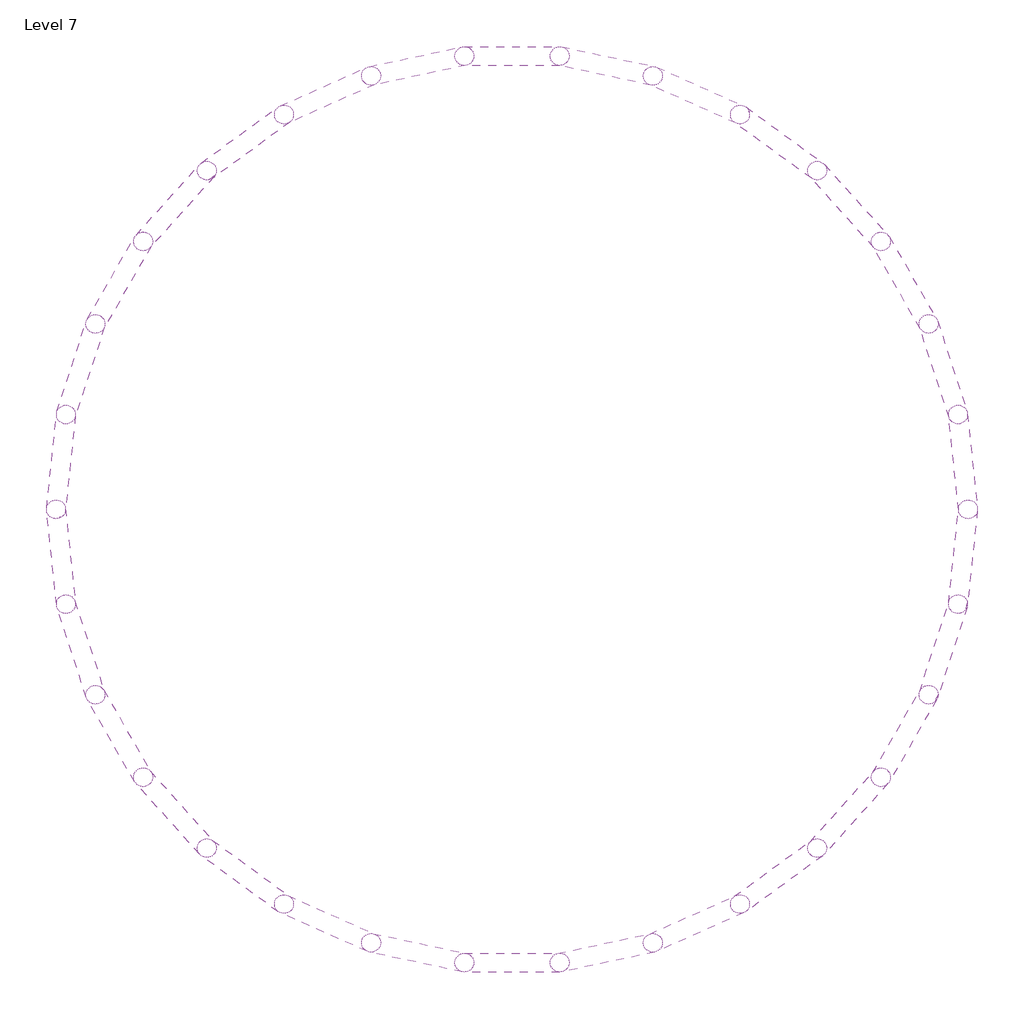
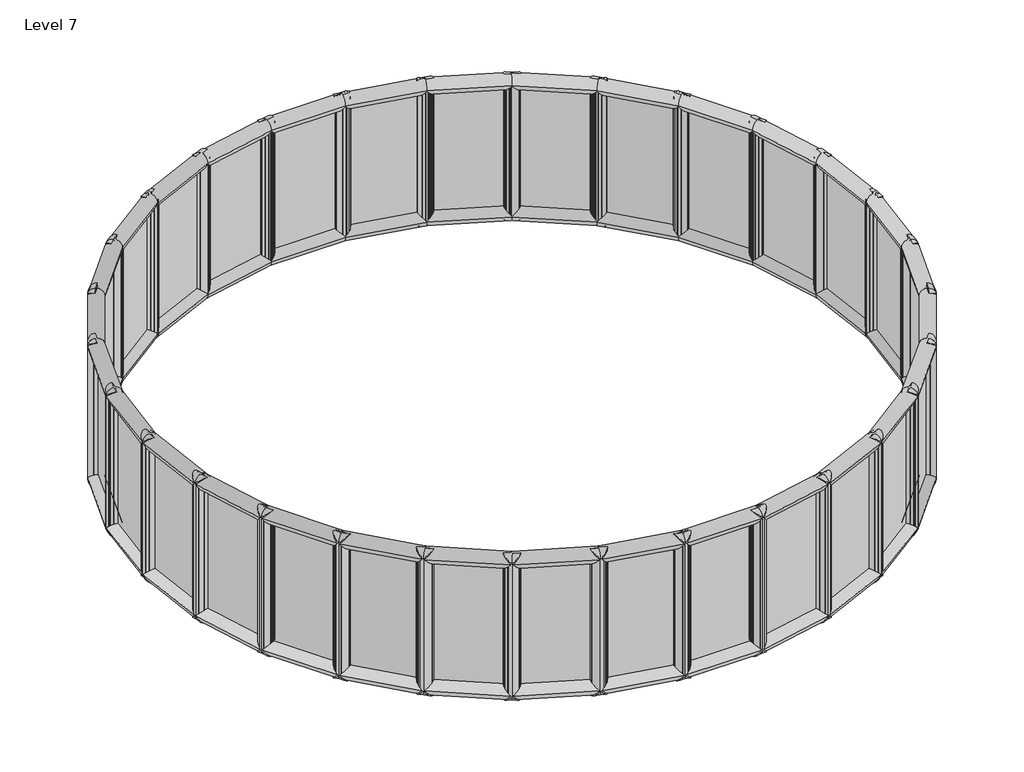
# One storey: 30 plates.
"""IFC4 building model written with IfcOpenShell, lengths in millimetres."""

from ifc_helpers import new_model, si_unit, origin, place, context, project, spatial, transform, mapped, element, save
from components import curtainpanel_curtainpanel_422c0389

model = new_model("IFC4")

# Units and contexts
model_context = context("Model", 3, world=origin())
ifc_project = project(units=[si_unit("LENGTHUNIT", "METRE", prefix="MILLI")], contexts=[model_context])

# Site, building, storey
site = spatial("IfcSite", under=ifc_project)
building = spatial("IfcBuilding", under=site)
storey = spatial("IfcBuildingStorey", under=building, Name="Level 7", Elevation=24000.0)

# Plates
placement = place(None, origin())
curtainpanel_curtainpanel_shape = curtainpanel_curtainpanel_422c0389(model_context)
element("IfcPlate", 1, ObjectType="CurtainPanel : CurtainPanel", at=placement, inside=storey, context=model_context, shape_type="MappedRepresentation", body=[
    mapped(curtainpanel_curtainpanel_shape, transform((10473.3847977, -2258.8505448, 35677.6455221), x_axis=(-0.10026801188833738, 0.9539864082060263, -0.2825884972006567), y_axis=(0.02953854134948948, -0.2810404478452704, -0.9592412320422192), z_axis=(-0.9945218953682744, -0.10452846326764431, 0.0))),
])
element("IfcPlate", 2, ObjectType="CurtainPanel : CurtainPanel", at=placement, inside=storey, context=model_context, shape_type="MappedRepresentation", body=[
    mapped(curtainpanel_curtainpanel_shape, transform((10648.8011484, 26.5774373, 35677.6455221), x_axis=(-0.29642184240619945, 0.9122926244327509, -0.28258849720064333), y_axis=(0.08732464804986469, -0.2687576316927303, -0.959241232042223), z_axis=(-0.9510565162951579, -0.3090169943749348, 0.0))),
])
element("IfcPlate", 3, ObjectType="CurtainPanel : CurtainPanel", at=placement, inside=storey, context=model_context, shape_type="MappedRepresentation", body=[
    mapped(curtainpanel_curtainpanel_shape, transform((10345.217035, 2298.5344447, 35677.6455221), x_axis=(-0.47962061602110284, 0.8307272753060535, -0.28258849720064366), y_axis=(0.1412942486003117, -0.2447288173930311, -0.959241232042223), z_axis=(-0.866025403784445, -0.4999999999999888, 0.0))),
])
element("IfcPlate", 4, ObjectType="CurtainPanel : CurtainPanel", at=placement, inside=storey, context=model_context, shape_type="MappedRepresentation", body=[
    mapped(curtainpanel_curtainpanel_shape, transform((9575.90054, 4457.7250542, 35677.6455221), x_axis=(-0.6418576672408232, 0.712855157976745, -0.28258849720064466), y_axis=(0.18908861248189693, -0.2100041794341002, -0.9592412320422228), z_axis=(-0.743144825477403, -0.6691306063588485, 0.0))),
])
element("IfcPlate", 5, ObjectType="CurtainPanel : CurtainPanel", at=placement, inside=storey, context=model_context, shape_type="MappedRepresentation", body=[
    mapped(curtainpanel_curtainpanel_shape, transform((8374.4744858, 6409.7822751, 35677.6455221), x_axis=(-0.7760424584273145, 0.5638278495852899, -0.282588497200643), y_axis=(0.22861889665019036, -0.16610135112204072, -0.9592412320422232), z_axis=(-0.5877852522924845, -0.8090169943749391, 0.0))),
])
element("IfcPlate", 6, ObjectType="CurtainPanel : CurtainPanel", at=placement, inside=storey, context=model_context, shape_type="MappedRepresentation", body=[
    mapped(curtainpanel_curtainpanel_shape, transform((6793.446956, 8069.3918399, 35677.6455221), x_axis=(-0.8763104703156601, 0.39015855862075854, -0.28258849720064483), y_axis=(0.2581574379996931, -0.11493909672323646, -0.9592412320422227), z_axis=(-0.406736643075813, -0.9135454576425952, 0.0))),
])
element("IfcPlate", 7, ObjectType="CurtainPanel : CurtainPanel", at=placement, inside=storey, context=model_context, shape_type="MappedRepresentation", body=[
    mapped(curtainpanel_curtainpanel_shape, transform((4901.9164403, 9364.020847, 35677.6455221), x_axis=(-0.9382795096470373, 0.1994374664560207, -0.2825884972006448), y_axis=(0.2764132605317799, -0.05875345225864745, -0.9592412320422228), z_axis=(-0.20791169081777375, -0.9781476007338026, 0.0))),
])
element("IfcPlate", 8, ObjectType="CurtainPanel : CurtainPanel", at=placement, inside=storey, context=model_context, shape_type="MappedRepresentation", body=[
    mapped(curtainpanel_curtainpanel_shape, transform((2782.5518989, 10237.0877963, 35677.6455221), x_axis=(-0.9592412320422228, 0.0, -0.28258849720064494), y_axis=(0.28258849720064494, 0.0, -0.9592412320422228), z_axis=(0.0, -1.0, 0.0))),
])
element("IfcPlate", 9, ObjectType="CurtainPanel : CurtainPanel", at=placement, inside=storey, context=model_context, shape_type="MappedRepresentation", body=[
    mapped(curtainpanel_curtainpanel_shape, transform((527.979732, 10650.4354728, 35677.6455221), x_axis=(-0.9382795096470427, -0.19943746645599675, -0.2825884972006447), y_axis=(0.2764132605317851, 0.058753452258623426, -0.9592412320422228), z_axis=(0.20791169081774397, -0.978147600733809, 0.0))),
])
element("IfcPlate", 10, ObjectType="CurtainPanel : CurtainPanel", at=placement, inside=storey, context=model_context, shape_type="MappedRepresentation", body=[
    mapped(curtainpanel_curtainpanel_shape, transform((-1763.2644381, 10585.9985995, 35677.6455221), x_axis=(-0.8763104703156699, -0.3901585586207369, -0.2825884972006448), y_axis=(0.2581574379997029, 0.11493909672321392, -0.9592412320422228), z_axis=(0.40673664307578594, -0.9135454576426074, 0.0))),
])
element("IfcPlate", 11, ObjectType="CurtainPanel : CurtainPanel", at=placement, inside=storey, context=model_context, shape_type="MappedRepresentation", body=[
    mapped(curtainpanel_curtainpanel_shape, transform((-6057.9891129, 9055.794402, 35677.6455221), x_axis=(-0.6418576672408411, -0.7128551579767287, -0.28258849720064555), y_axis=(0.18908861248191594, 0.21000417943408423, -0.9592412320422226), z_axis=(0.7431448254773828, -0.669130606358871, 0.0))),
])
element("IfcPlate", 12, ObjectType="CurtainPanel : CurtainPanel", at=placement, inside=storey, context=model_context, shape_type="MappedRepresentation", body=[
    mapped(curtainpanel_curtainpanel_shape, transform((-9359.0252128, 5911.0614109, 35677.6455221), x_axis=(-0.29642184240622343, -0.912292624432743, -0.28258849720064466), y_axis=(0.08732464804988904, 0.2687576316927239, -0.9592412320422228), z_axis=(0.951056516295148, -0.3090169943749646, 0.0))),
])
element("IfcPlate", 13, ObjectType="CurtainPanel : CurtainPanel", at=placement, inside=storey, context=model_context, shape_type="MappedRepresentation", body=[
    mapped(curtainpanel_curtainpanel_shape, transform((-3991.0422465, 10046.593377, 35677.6455221), x_axis=(-0.7760424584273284, -0.5638278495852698, -0.28258849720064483), y_axis=(0.22861889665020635, 0.16610135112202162, -0.9592412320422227), z_axis=(0.5877852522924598, -0.8090169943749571, 0.0))),
])
element("IfcPlate", 14, ObjectType="CurtainPanel : CurtainPanel", at=placement, inside=storey, context=model_context, shape_type="MappedRepresentation", body=[
    mapped(curtainpanel_curtainpanel_shape, transform((-7873.7695409, 7656.9043439, 35677.6455221), x_axis=(-0.4796206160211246, -0.8307272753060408, -0.2825884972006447), y_axis=(0.14129424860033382, 0.24472881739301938, -0.9592412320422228), z_axis=(0.8660254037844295, -0.5000000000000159, 0.0))),
])
element("IfcPlate", 15, ObjectType="CurtainPanel : CurtainPanel", at=placement, inside=storey, context=model_context, shape_type="MappedRepresentation", body=[
    mapped(curtainpanel_curtainpanel_shape, transform((-10448.8433287, 3894.5673167, 35677.6455221), x_axis=(-0.10026801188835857, -0.9539864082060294, -0.28258849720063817), y_axis=(0.029538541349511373, 0.28104044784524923, -0.9592412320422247), z_axis=(0.9945218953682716, -0.10452846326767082, 0.0))),
])
element("IfcPlate", 16, ObjectType="CurtainPanel : CurtainPanel", at=placement, inside=storey, context=model_context, shape_type="MappedRepresentation", body=[
    mapped(curtainpanel_curtainpanel_shape, transform((-11095.5936073, 1695.5525294, 35677.6455221), x_axis=(0.10026801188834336, -0.9539864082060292, -0.28258849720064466), y_axis=(-0.029538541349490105, 0.28104044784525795, -0.9592412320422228), z_axis=(0.9945218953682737, 0.10452846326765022, 0.0))),
])
element("IfcPlate", 17, ObjectType="CurtainPanel : CurtainPanel", at=placement, inside=storey, context=model_context, shape_type="MappedRepresentation", body=[
    mapped(curtainpanel_curtainpanel_shape, transform((-11271.009958, -589.8754527, 35677.6455221), x_axis=(0.29642184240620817, -0.9122926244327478, -0.2825884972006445), y_axis=(-0.08732464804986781, 0.26875763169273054, -0.9592412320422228), z_axis=(0.9510565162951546, 0.309016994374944, 0.0))),
])
element("IfcPlate", 18, ObjectType="CurtainPanel : CurtainPanel", at=placement, inside=storey, context=model_context, shape_type="MappedRepresentation", body=[
    mapped(curtainpanel_curtainpanel_shape, transform((-10967.4258446, -2861.8324601, 35677.6455221), x_axis=(0.4796206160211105, -0.8307272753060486, -0.28258849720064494), y_axis=(-0.14129424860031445, 0.24472881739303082, -0.9592412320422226), z_axis=(0.8660254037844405, 0.49999999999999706, 0.0))),
])
element("IfcPlate", 19, ObjectType="CurtainPanel : CurtainPanel", at=placement, inside=storey, context=model_context, shape_type="MappedRepresentation", body=[
    mapped(curtainpanel_curtainpanel_shape, transform((-10198.1093496, -5021.0230696, 35677.6455221), x_axis=(0.6418576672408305, -0.7128551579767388, -0.28258849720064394), y_axis=(-0.1890886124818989, 0.21000417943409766, -0.9592412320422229), z_axis=(0.7431448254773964, 0.6691306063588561, 0.0))),
])
element("IfcPlate", 20, ObjectType="CurtainPanel : CurtainPanel", at=placement, inside=storey, context=model_context, shape_type="MappedRepresentation", body=[
    mapped(curtainpanel_curtainpanel_shape, transform((-8996.6832954, -6973.0802905, 35677.6455221), x_axis=(0.7760424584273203, -0.5638278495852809, -0.2825884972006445), y_axis=(-0.22861889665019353, 0.16610135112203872, -0.9592412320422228), z_axis=(0.5877852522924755, 0.8090169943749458, 0.0))),
])
element("IfcPlate", 21, ObjectType="CurtainPanel : CurtainPanel", at=placement, inside=storey, context=model_context, shape_type="MappedRepresentation", body=[
    mapped(curtainpanel_curtainpanel_shape, transform((-7415.6557656, -8632.6898553, 35677.6455221), x_axis=(0.8763104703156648, -0.3901585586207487, -0.28258849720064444), y_axis=(-0.25815743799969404, 0.11493909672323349, -0.9592412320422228), z_axis=(0.4067366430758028, 0.9135454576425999, 0.0))),
])
element("IfcPlate", 22, ObjectType="CurtainPanel : CurtainPanel", at=placement, inside=storey, context=model_context, shape_type="MappedRepresentation", body=[
    mapped(curtainpanel_curtainpanel_shape, transform((-5524.1252499, -9927.3188624, 35677.6455221), x_axis=(0.9382795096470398, -0.19943746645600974, -0.2825884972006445), y_axis=(-0.2764132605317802, 0.058753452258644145, -0.9592412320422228), z_axis=(0.20791169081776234, 0.9781476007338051, 0.0))),
])
element("IfcPlate", 23, ObjectType="CurtainPanel : CurtainPanel", at=placement, inside=storey, context=model_context, shape_type="MappedRepresentation", body=[
    mapped(curtainpanel_curtainpanel_shape, transform((-3404.7607085, -10800.3858117, 35677.6455221), x_axis=(0.9592412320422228, 0.0, -0.28258849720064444), y_axis=(-0.28258849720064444, 0.0, -0.9592412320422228), z_axis=(0.0, 1.0, 0.0))),
])
element("IfcPlate", 24, ObjectType="CurtainPanel : CurtainPanel", at=placement, inside=storey, context=model_context, shape_type="MappedRepresentation", body=[
    mapped(curtainpanel_curtainpanel_shape, transform((-1150.1885416, -11213.7334882, 35677.6455221), x_axis=(0.93827950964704, 0.1994374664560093, -0.2825884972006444), y_axis=(-0.2764132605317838, -0.058753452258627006, -0.9592412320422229), z_axis=(-0.20791169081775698, 0.9781476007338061, 0.0))),
])
element("IfcPlate", 25, ObjectType="CurtainPanel : CurtainPanel", at=placement, inside=storey, context=model_context, shape_type="MappedRepresentation", body=[
    mapped(curtainpanel_curtainpanel_shape, transform((1141.0556285, -11149.2966149, 35677.6455221), x_axis=(0.876310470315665, 0.39015855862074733, -0.28258849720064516), y_axis=(-0.25815743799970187, -0.11493909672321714, -0.9592412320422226), z_axis=(-0.4067366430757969, 0.9135454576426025, 0.0))),
])
element("IfcPlate", 26, ObjectType="CurtainPanel : CurtainPanel", at=placement, inside=storey, context=model_context, shape_type="MappedRepresentation", body=[
    mapped(curtainpanel_curtainpanel_shape, transform((5435.7803033, -9619.0924174, 35677.6455221), x_axis=(0.641857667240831, 0.7128551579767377, -0.28258849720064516), y_axis=(-0.18908861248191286, -0.21000417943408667, -0.9592412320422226), z_axis=(-0.7431448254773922, 0.6691306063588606, 0.0))),
])
element("IfcPlate", 27, ObjectType="CurtainPanel : CurtainPanel", at=placement, inside=storey, context=model_context, shape_type="MappedRepresentation", body=[
    mapped(curtainpanel_curtainpanel_shape, transform((8736.8164032, -6474.3594263, 35677.6455221), x_axis=(0.2964218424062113, 0.9122926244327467, -0.2825884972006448), y_axis=(-0.08732464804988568, -0.268757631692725, -0.9592412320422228), z_axis=(-0.9510565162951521, 0.309016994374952, 0.0))),
])
element("IfcPlate", 28, ObjectType="CurtainPanel : CurtainPanel", at=placement, inside=storey, context=model_context, shape_type="MappedRepresentation", body=[
    mapped(curtainpanel_curtainpanel_shape, transform((3368.8334369, -10609.8913925, 35677.6455221), x_axis=(0.7760424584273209, 0.5638278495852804, -0.28258849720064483), y_axis=(-0.22861889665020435, -0.1661013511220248, -0.9592412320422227), z_axis=(-0.5877852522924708, 0.8090169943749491, 0.0))),
])
element("IfcPlate", 29, ObjectType="CurtainPanel : CurtainPanel", at=placement, inside=storey, context=model_context, shape_type="MappedRepresentation", body=[
    mapped(curtainpanel_curtainpanel_shape, transform((7251.5607313, -8220.2023593, 35677.6455221), x_axis=(0.47962061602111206, 0.830727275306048, -0.2825884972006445), y_axis=(-0.14129424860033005, -0.24472881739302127, -0.9592412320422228), z_axis=(-0.8660254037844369, 0.5000000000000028, 0.0))),
])
element("IfcPlate", 30, ObjectType="CurtainPanel : CurtainPanel", at=placement, inside=storey, context=model_context, shape_type="MappedRepresentation", body=[
    mapped(curtainpanel_curtainpanel_shape, transform((9826.6345191, -4457.8653321, 35677.6455221), x_axis=(0.1002680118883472, 0.9539864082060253, -0.28258849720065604), y_axis=(-0.029538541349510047, -0.28104044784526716, -0.9592412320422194), z_axis=(-0.9945218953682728, 0.10452846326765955, 0.0))),
])

save(model, "model.ifc")
